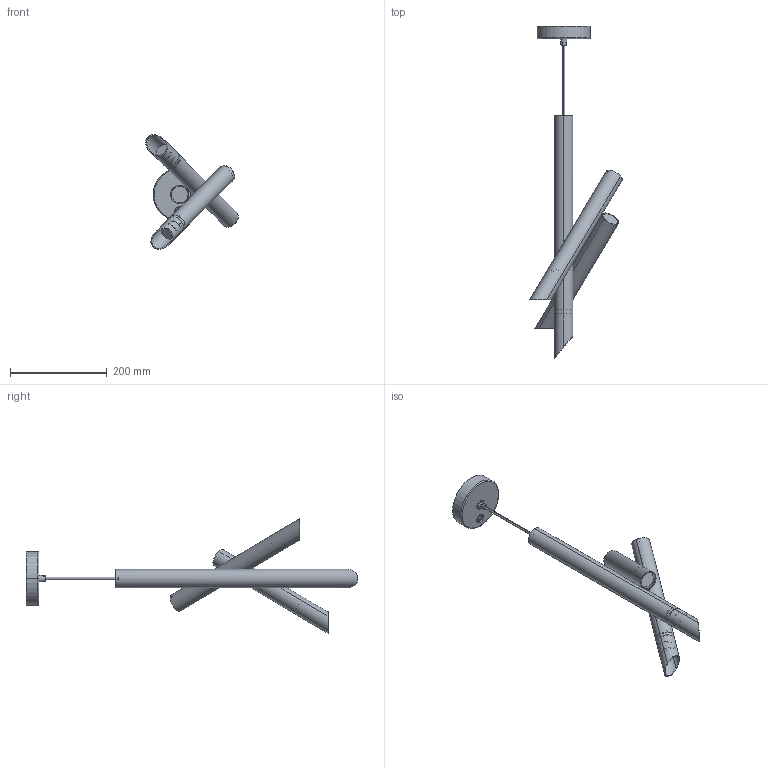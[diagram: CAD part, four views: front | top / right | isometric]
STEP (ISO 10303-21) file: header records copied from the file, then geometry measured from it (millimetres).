
FILE_DESCRIPTION (( 'STEP AP203' ), '1' );
FILE_NAME ('800TTBLWW511_Tre tubi.STEP', '2016-10-26T13:51:07', ( '' ), ( '' ), 'SwSTEP 2.0', 'SolidWorks 2016', '' );
FILE_SCHEMA (( 'CONFIG_CONTROL_DESIGN' ));
Length unit declared in the file: millimetre
Products named in the file (35): 010TTB000600_Staffa interna; CAVO CON OCCHIELLO SENZA CAPOCORDA; 019COM000030; 009COM000043_Anello or nero sp.1,78; 010TTB001200_Ranella antirotazione; VITE TCICR M4X10_B18.6.7M - M4 x 0.7 x 10 Type I Cross Recessed PHMS --10N; 052COM700110; 010TTB000800_Boccola sostegno led; VITE M3x4 TCICR_B18.6.7M - M3 x 0.5 x 8 Type I Cross Recessed PHMS --8N; Innesto taschini; 052COM700800; 010TTB001000_Diffusore; 010TTB700500_Tappo tubi; grano EI M3x4; CONNETTORE_CL1_019COM000076; dado M10x1 sp.3; BLOCCACAVO_5916_STEAB; 010TTB700300_Tubo 3; 010COM000110_STAFFA SOST.ROSONE ZB 2FIL.M10X1; 004GOR000004; 010TTB000700_Distanziale; BLOCCACAVO_5905_STEAB; 010TTB700100_Tubo 1; bloccacavo_STEAB_5922; 010TTB001100_Distanziale per diffusore; 019PRP700100 - 019PRP700200_019PRP700100; 800TTBLWW511_Tre tubi; 010TTB700200_Tubo 2; VITE M3x12 TCICR_B18.6.7M - M4 x 0.7 x 13 Type I Cross Recessed PHMS --13N; 010TTB000900_Contrappeso; BLOCCACAVO STEAB 5069-7; 010TTB700400_Tappo tubo verticale; rondella dentellata d 4; cavo ﾘ5 L.250; 093COM000015_Led Seoul Ø33_220V_4,5W_400lm_SMJE-3V04W1P3_HMC
Assembly tree (61 placements, depth 2):
  800TTBLWW511_Tre tubi
    010TTB700300_Tubo 3
    010TTB700100_Tubo 1
    010TTB700200_Tubo 2
    010TTB700400_Tappo tubo verticale
    010TTB000600_Staffa interna
    010TTB001200_Ranella antirotazione
    VITE M3x4 TCICR_B18.6.7M - M3 x 0.5 x 8 Type I Cross Recessed PHMS --8N  x3
    010TTB700500_Tappo tubi  x2
    010TTB000700_Distanziale
    019PRP700100 - 019PRP700200_019PRP700100
    BLOCCACAVO STEAB 5069-7
    093COM000015_Led Seoul Ø33_220V_4,5W_400lm_SMJE-3V04W1P3_HMC  x3
    009COM000043_Anello or nero sp.1,78  x6
    010TTB000800_Boccola sostegno led  x3
    010TTB001000_Diffusore  x3
    dado M10x1 sp.3
    004GOR000004
    010TTB001100_Distanziale per diffusore  x3
    010TTB000900_Contrappeso  x3
    cavo ﾘ5 L.250
    019COM000030
    052COM700110
    052COM700800
    CONNETTORE_CL1_019COM000076
    010COM000110_STAFFA SOST.ROSONE ZB 2FIL.M10X1
    bloccacavo_STEAB_5922  x2
    VITE M3x12 TCICR_B18.6.7M - M4 x 0.7 x 13 Type I Cross Recessed PHMS --13N  x2
    rondella dentellata d 4
    CAVO CON OCCHIELLO SENZA CAPOCORDA
    VITE TCICR M4X10_B18.6.7M - M4 x 0.7 x 10 Type I Cross Recessed PHMS --10N
    Innesto taschini  x3
    grano EI M3x4  x6
    BLOCCACAVO_5916_STEAB
    BLOCCACAVO_5905_STEAB
Bounding box: 190.83 x 685.43 x 236.81 mm (x, y, z)
Volume: 415869 mm3; surface area: 394199.7 mm2
Topology: 61 solids, 61 shells, 3467 faces, 8912 edges, 5808 vertices
Faces by surface type: plane 1954, bspline 723, cylinder 565, torus 113, cone 86, sphere 26
Entity records: 69478 total; most frequent: CARTESIAN_POINT 27137, ORIENTED_EDGE 8216, DIRECTION 7115, EDGE_CURVE 4108, VERTEX_POINT 2660, VECTOR 2523, LINE 2523, AXIS2_PLACEMENT_3D 2296
